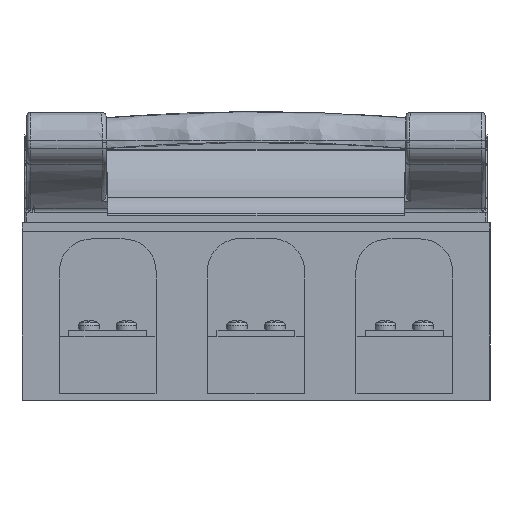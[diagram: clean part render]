
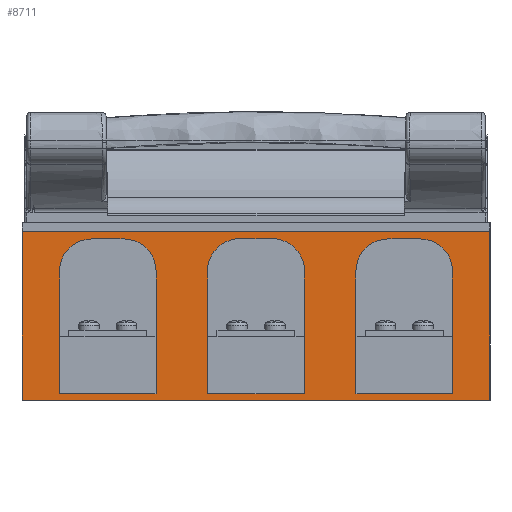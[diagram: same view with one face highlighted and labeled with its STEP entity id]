
A CAD part, left-side view. The second image highlights one B-rep face of the part: STEP entity #8711.
In plain terms, the highlighted planar face has unit normal (-1, 0, 0).
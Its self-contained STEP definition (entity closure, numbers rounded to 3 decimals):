
#8711=ADVANCED_FACE('',(#13167,#13168,#13169,#13170),#10916,.F.);
#10916=PLANE('',#46986);
#12525=CIRCLE('',#46980,12.394);
#12526=CIRCLE('',#46981,12.394);
#12527=CIRCLE('',#46982,12.289);
#12528=CIRCLE('',#46983,12.289);
#12529=CIRCLE('',#46984,12.289);
#12530=CIRCLE('',#46985,12.289);
#13167=FACE_BOUND('',#14029,.T.);
#13168=FACE_BOUND('',#14030,.T.);
#13169=FACE_BOUND('',#14031,.T.);
#13170=FACE_BOUND('',#14032,.T.);
#14029=EDGE_LOOP('',(#18764,#18765,#18766,#18767,#18768,#18769));
#14030=EDGE_LOOP('',(#18770,#18771,#18772,#18773,#18774,#18775));
#14031=EDGE_LOOP('',(#18776,#18777,#18778,#18779));
#14032=EDGE_LOOP('',(#18780,#18781,#18782,#18783,#18784,#18785));
#18764=ORIENTED_EDGE('',*,*,#34687,.T.);
#18765=ORIENTED_EDGE('',*,*,#33457,.T.);
#18766=ORIENTED_EDGE('',*,*,#34688,.T.);
#18767=ORIENTED_EDGE('',*,*,#34689,.F.);
#18768=ORIENTED_EDGE('',*,*,#34690,.F.);
#18769=ORIENTED_EDGE('',*,*,#34691,.T.);
#18770=ORIENTED_EDGE('',*,*,#34692,.F.);
#18771=ORIENTED_EDGE('',*,*,#34693,.F.);
#18772=ORIENTED_EDGE('',*,*,#34694,.T.);
#18773=ORIENTED_EDGE('',*,*,#34695,.T.);
#18774=ORIENTED_EDGE('',*,*,#34696,.T.);
#18775=ORIENTED_EDGE('',*,*,#34697,.T.);
#18776=ORIENTED_EDGE('',*,*,#33254,.T.);
#18777=ORIENTED_EDGE('',*,*,#34686,.T.);
#18778=ORIENTED_EDGE('',*,*,#34603,.T.);
#18779=ORIENTED_EDGE('',*,*,#33304,.F.);
#18780=ORIENTED_EDGE('',*,*,#33464,.F.);
#18781=ORIENTED_EDGE('',*,*,#34698,.F.);
#18782=ORIENTED_EDGE('',*,*,#34699,.T.);
#18783=ORIENTED_EDGE('',*,*,#34700,.T.);
#18784=ORIENTED_EDGE('',*,*,#33461,.T.);
#18785=ORIENTED_EDGE('',*,*,#34701,.T.);
#29073=VERTEX_POINT('',#62506);
#29074=VERTEX_POINT('',#62508);
#29117=VERTEX_POINT('',#62632);
#29271=VERTEX_POINT('',#63208);
#29273=VERTEX_POINT('',#63212);
#29275=VERTEX_POINT('',#63217);
#29277=VERTEX_POINT('',#63221);
#29279=VERTEX_POINT('',#63227);
#29280=VERTEX_POINT('',#63229);
#29929=VERTEX_POINT('',#66643);
#29939=VERTEX_POINT('',#67243);
#29940=VERTEX_POINT('',#67245);
#29941=VERTEX_POINT('',#67247);
#29942=VERTEX_POINT('',#67249);
#29943=VERTEX_POINT('',#67252);
#29944=VERTEX_POINT('',#67253);
#29945=VERTEX_POINT('',#67255);
#29946=VERTEX_POINT('',#67257);
#29947=VERTEX_POINT('',#67259);
#29948=VERTEX_POINT('',#67261);
#29949=VERTEX_POINT('',#67264);
#29950=VERTEX_POINT('',#67266);
#33254=EDGE_CURVE('',#29073,#29074,#39749,.T.);
#33304=EDGE_CURVE('',#29073,#29117,#39779,.T.);
#33457=EDGE_CURVE('',#29271,#29273,#39871,.T.);
#33461=EDGE_CURVE('',#29275,#29277,#39875,.T.);
#33464=EDGE_CURVE('',#29279,#29280,#39878,.T.);
#34603=EDGE_CURVE('',#29929,#29117,#40468,.T.);
#34686=EDGE_CURVE('',#29074,#29929,#40483,.T.);
#34687=EDGE_CURVE('',#29939,#29271,#12525,.T.);
#34688=EDGE_CURVE('',#29273,#29940,#12526,.T.);
#34689=EDGE_CURVE('',#29941,#29940,#40484,.T.);
#34690=EDGE_CURVE('',#29942,#29941,#40485,.T.);
#34691=EDGE_CURVE('',#29942,#29939,#40486,.T.);
#34692=EDGE_CURVE('',#29943,#29944,#40487,.T.);
#34693=EDGE_CURVE('',#29945,#29943,#40488,.T.);
#34694=EDGE_CURVE('',#29945,#29946,#40489,.T.);
#34695=EDGE_CURVE('',#29946,#29947,#12527,.T.);
#34696=EDGE_CURVE('',#29947,#29948,#40490,.T.);
#34697=EDGE_CURVE('',#29948,#29944,#12528,.T.);
#34698=EDGE_CURVE('',#29949,#29279,#40491,.T.);
#34699=EDGE_CURVE('',#29949,#29950,#40492,.T.);
#34700=EDGE_CURVE('',#29950,#29275,#12529,.T.);
#34701=EDGE_CURVE('',#29277,#29280,#12530,.T.);
#39749=LINE('',#62509,#42824);
#39779=LINE('',#62641,#42854);
#39871=LINE('',#63213,#42946);
#39875=LINE('',#63222,#42950);
#39878=LINE('',#63228,#42953);
#40468=LINE('',#66646,#43543);
#40483=LINE('',#67240,#43558);
#40484=LINE('',#67246,#43559);
#40485=LINE('',#67248,#43560);
#40486=LINE('',#67250,#43561);
#40487=LINE('',#67251,#43562);
#40488=LINE('',#67254,#43563);
#40489=LINE('',#67256,#43564);
#40490=LINE('',#67260,#43565);
#40491=LINE('',#67263,#43566);
#40492=LINE('',#67265,#43567);
#42824=VECTOR('',#50418,1.);
#42854=VECTOR('',#50488,1.);
#42946=VECTOR('',#50660,1.);
#42950=VECTOR('',#50666,1.);
#42953=VECTOR('',#50671,1.);
#43543=VECTOR('',#52923,1.);
#43558=VECTOR('',#53276,1.);
#43559=VECTOR('',#53283,1.);
#43560=VECTOR('',#53284,1.);
#43561=VECTOR('',#53285,1.);
#43562=VECTOR('',#53286,1.);
#43563=VECTOR('',#53287,1.);
#43564=VECTOR('',#53288,1.);
#43565=VECTOR('',#53291,1.);
#43566=VECTOR('',#53294,1.);
#43567=VECTOR('',#53295,1.);
#46980=AXIS2_PLACEMENT_3D('',#67242,#53279,#53280);
#46981=AXIS2_PLACEMENT_3D('',#67244,#53281,#53282);
#46982=AXIS2_PLACEMENT_3D('',#67258,#53289,#53290);
#46983=AXIS2_PLACEMENT_3D('',#67262,#53292,#53293);
#46984=AXIS2_PLACEMENT_3D('',#67267,#53296,#53297);
#46985=AXIS2_PLACEMENT_3D('',#67268,#53298,#53299);
#46986=AXIS2_PLACEMENT_3D('',#67269,#53300,#53301);
#50418=DIRECTION('',(0.,-1.,0.));
#50488=DIRECTION('',(0.,0.,1.));
#50660=DIRECTION('',(0.,-1.,0.));
#50666=DIRECTION('',(0.,-1.,0.));
#50671=DIRECTION('',(0.,0.,1.));
#52923=DIRECTION('',(0.,1.,0.));
#53276=DIRECTION('',(0.,0.,1.));
#53279=DIRECTION('',(1.,0.,0.));
#53280=DIRECTION('',(0.,0.,-1.));
#53281=DIRECTION('',(1.,0.,0.));
#53282=DIRECTION('',(0.,0.,-1.));
#53283=DIRECTION('',(0.,0.,1.));
#53284=DIRECTION('',(0.,-1.,0.));
#53285=DIRECTION('',(0.,0.,1.));
#53286=DIRECTION('',(0.,0.,1.));
#53287=DIRECTION('',(0.,-1.,0.));
#53288=DIRECTION('',(0.,0.,1.));
#53289=DIRECTION('',(1.,0.,0.));
#53290=DIRECTION('',(0.,0.,-1.));
#53291=DIRECTION('',(0.,-1.,0.));
#53292=DIRECTION('',(1.,0.,0.));
#53293=DIRECTION('',(0.,0.,-1.));
#53294=DIRECTION('',(0.,-1.,0.));
#53295=DIRECTION('',(0.,0.,1.));
#53296=DIRECTION('',(1.,0.,0.));
#53297=DIRECTION('',(0.,0.,-1.));
#53298=DIRECTION('',(1.,0.,0.));
#53299=DIRECTION('',(0.,0.,-1.));
#53300=DIRECTION('',(1.,0.,0.));
#53301=DIRECTION('',(0.,1.,0.));
#62506=CARTESIAN_POINT('',(-103.372,99.784,112.088));
#62508=CARTESIAN_POINT('',(-103.372,-80.216,112.088));
#62509=CARTESIAN_POINT('',(-103.372,95.284,112.088));
#62632=CARTESIAN_POINT('',(-103.372,99.784,177.006));
#62641=CARTESIAN_POINT('',(-103.372,99.784,117.088));
#63208=CARTESIAN_POINT('',(-103.372,17.643,174.128));
#63212=CARTESIAN_POINT('',(-103.372,1.926,174.128));
#63213=CARTESIAN_POINT('',(-103.372,9.784,174.128));
#63217=CARTESIAN_POINT('',(-103.372,-40.966,174.128));
#63221=CARTESIAN_POINT('',(-103.372,-53.466,174.128));
#63222=CARTESIAN_POINT('',(-103.372,9.784,174.128));
#63227=CARTESIAN_POINT('',(-103.372,-65.755,114.588));
#63228=CARTESIAN_POINT('',(-103.372,-65.755,203.088));
#63229=CARTESIAN_POINT('',(-103.372,-65.755,161.838));
#66643=CARTESIAN_POINT('',(-103.372,-80.216,177.006));
#66646=CARTESIAN_POINT('',(-103.372,95.284,177.006));
#67240=CARTESIAN_POINT('',(-103.372,-80.216,117.088));
#67242=CARTESIAN_POINT('',(-103.372,16.034,161.838));
#67243=CARTESIAN_POINT('',(-103.372,28.429,161.838));
#67244=CARTESIAN_POINT('',(-103.372,3.534,161.838));
#67245=CARTESIAN_POINT('',(-103.372,-8.86,161.838));
#67246=CARTESIAN_POINT('',(-103.372,-8.86,203.088));
#67247=CARTESIAN_POINT('',(-103.372,-8.86,114.588));
#67248=CARTESIAN_POINT('',(-103.372,95.284,114.588));
#67249=CARTESIAN_POINT('',(-103.372,28.429,114.588));
#67250=CARTESIAN_POINT('',(-103.372,28.429,144.547));
#67251=CARTESIAN_POINT('',(-103.372,48.245,203.088));
#67252=CARTESIAN_POINT('',(-103.372,48.245,114.588));
#67253=CARTESIAN_POINT('',(-103.372,48.245,161.838));
#67254=CARTESIAN_POINT('',(-103.372,95.284,114.588));
#67255=CARTESIAN_POINT('',(-103.372,85.324,114.588));
#67256=CARTESIAN_POINT('',(-103.372,85.324,144.547));
#67257=CARTESIAN_POINT('',(-103.372,85.324,161.838));
#67258=CARTESIAN_POINT('',(-103.372,73.034,161.838));
#67259=CARTESIAN_POINT('',(-103.372,73.034,174.128));
#67260=CARTESIAN_POINT('',(-103.372,9.784,174.128));
#67261=CARTESIAN_POINT('',(-103.372,60.534,174.128));
#67262=CARTESIAN_POINT('',(-103.372,60.534,161.838));
#67263=CARTESIAN_POINT('',(-103.372,95.284,114.588));
#67264=CARTESIAN_POINT('',(-103.372,-28.676,114.588));
#67265=CARTESIAN_POINT('',(-103.372,-28.676,144.547));
#67266=CARTESIAN_POINT('',(-103.372,-28.676,161.838));
#67267=CARTESIAN_POINT('',(-103.372,-40.966,161.838));
#67268=CARTESIAN_POINT('',(-103.372,-53.466,161.838));
#67269=CARTESIAN_POINT('',(-103.372,95.284,203.088));
